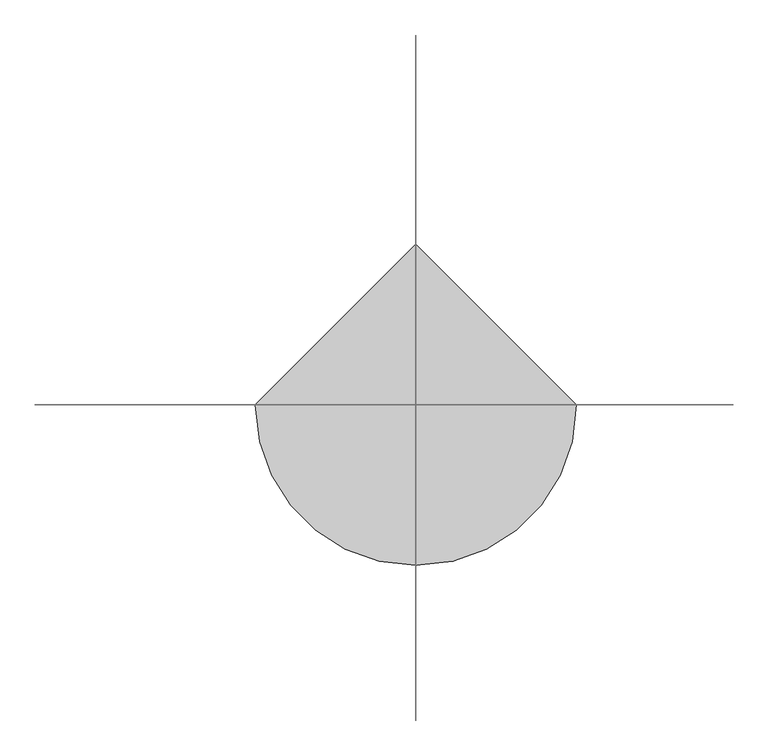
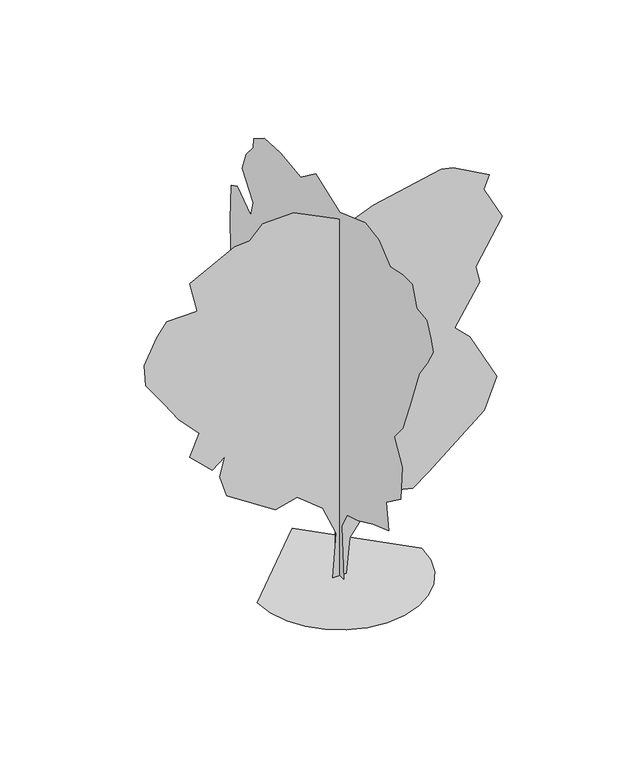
"""IFC4 building model written with IfcOpenShell, lengths in millimetres: geographic element geometry, RPC Árvore - Outono : Amelanchier alnifolia - 7,6 metros."""

from ifc_helpers import new_model, si_unit, origin, place, context, project, spatial, triangles, source, transform, mapped, element, save


def geographic_element_72aa0b57(model_context):
    return source(origin(), model_context, "Body", "Tessellation", [
        triangles([(-1565.0867363, 0.0, 0.0919574), (-1523.7097561, -358.6132487, 0.0919574), (-1405.8718906, -687.9436918, 0.0919574), (-1221.0071571, -978.5547323, 0.0919574), (-978.5547323, -1221.0071571, 0.0919574), (-687.9436918, -1405.8718906, 0.0919574), (-358.6132487, -1523.7097561, 0.0919574), (6.84e-05, -1565.0867363, 0.0919574), (358.6132487, -1523.7097561, 0.0919574), (687.9436918, -1405.8718906, 0.0919574), (978.5547323, -1221.0071571, 0.0919574), (1221.0097733, -978.5547323, 0.0919574), (1405.8718906, -687.9436918, 0.0919574), (1523.7097561, -358.6132487, 0.0919574), (1565.0867363, 0.0001368, 0.0919574), (-0.0002052, 1565.0867363, 0.0919574), (-1.68e-05, -141.1460449, 0.1468724), (0.0001144, -69.5594397, 1029.4924662), (0.0001326, -255.7118807, 1368.3177876), (0.0001021, -613.7399363, 1470.611253), (7.01e-05, -1112.4185091, 1700.7719135), (3.2e-05, -1611.0970093, 1879.7846786), (0.0001037, -1534.3777096, 2404.0372719), (8.84e-05, -2007.482262, 2749.2720131), (0.0001631, -2058.6301575, 3426.9632057), (0.0002165, -1892.4032398, 3708.2643494), (0.0002485, -1790.1097744, 3874.5015862), (0.0002546, -2084.2041779, 4219.743885), (0.0002972, -2301.5766655, 4795.1392868), (0.0003605, -2616.5001755, 5640.6888382), (0.0003735, -2876.9770088, 6009.8715363), (0.0003902, -3081.5688812, 6355.1138351), (0.0004283, -2992.0664955, 6585.2666473), (0.0004771, -2864.1838943, 6866.5680817), (0.0005213, -2544.5281151, 6917.7155411), (0.0005853, -2391.0818127, 7301.3124756), (0.0006232, -2074.1139507, 7301.6676865), (0.000662, -1658.5894592, 7212.2661667), (0.0007448, -1279.4384743, 7526.9562607), (0.0008056, -841.6687563, 7599.9925003), (0.0008702, -0.5873857, 7300.0968521), (0.0009993, 787.1337856, 7595.6352081), (0.0010148, 1280.7330173, 7232.3806366), (0.0011051, 1956.3773872, 7314.1058807), (0.0011646, 2480.6299805, 7288.5446503), (0.0011798, 2838.647953, 7058.3662582), (0.0011593, 2851.8212769, 6873.382782), (0.0011539, 3081.5941704, 6598.0600525), (0.0011265, 3209.4767715, 6240.0243484), (0.0010272, 2840.3452332, 5776.5770554), (0.0010016, 2938.35989, 5463.406636), (0.0010907, 3368.7219933, 5780.9087677), (0.0011036, 3580.2805916, 5677.4226425), (0.0010228, 3605.8671112, 4974.1446396), (0.000882, 3572.8072105, 3826.1908722), (0.0007667, 3081.5941704, 3350.2539345), (0.0006219, 2621.2879646, 2595.8281815), (0.0005194, 2035.3388466, 2321.7140991), (0.0004238, 1427.7497704, 2127.4481953), (0.0004077, 1156.5744621, 2263.3840839), (0.0003536, 946.231996, 2020.4377213), (0.0003338, 1035.7396139, 1764.7030403), (0.0003033, 971.8059437, 1572.9045731), (0.0002179, 600.3740733, 1227.6647449), (0.000209, 314.019023, 1439.3701366), (0.0001469, 143.2527658, 1089.4969431), (1.52e-05, 127.6806331, 0.087137), (-130.8090395, 5.7e-06, 1.1e-05), (-67.1190817, -0.0001011, 873.1073896), (-321.388486, -0.0001606, 1465.4027046), (-810.9875622, -0.0001857, 1855.1151089), (-1226.1523373, -0.0001546, 1746.5618511), (-2150.5876259, -0.0001865, 2352.7422924), (-2284.3778606, -0.0002321, 2784.8651894), (-2188.9473484, -0.0002808, 3158.3034416), (-2423.7363602, -0.0002479, 2968.4557274), (-2853.8478973, -0.0002777, 3375.66343), (-2674.1079964, -0.0003355, 3794.8535408), (-3058.4397697, -0.0003678, 4206.7984543), (-3339.7406227, -0.0004043, 4615.9821991), (-3684.9829216, -0.0004471, 5101.8752151), (-3715.1802063, -0.0004955, 5518.9369675), (-3482.2912239, -0.0005635, 6003.9434097), (-3288.5928726, -0.0006016, 6252.6660187), (-2708.0038925, -0.0006282, 6262.4444916), (-2853.8478973, -0.0006938, 6866.4413452), (-1997.146265, -0.0007846, 7313.9541458), (-1709.6588711, -0.0007992, 7331.3071564), (-1460.1079697, -0.0008401, 7582.4871735), (-877.1303272, -0.0008674, 7598.3205093), (233.2934272, -0.0008512, 7054.5914886), (636.9021852, -0.0008891, 7224.4514694), (1928.3536617, -0.0009775, 7492.9844971), (2158.5143223, -0.0009815, 7441.8364563), (2845.1838913, -0.0009661, 7060.6719315), (2743.3438866, -0.0009314, 6807.1356628), (3092.7155846, -0.0008669, 6138.3113708), (2590.2041061, -0.0007451, 5300.3363571), (2661.3145912, -0.0007093, 4973.8655869), (2187.3132912, -0.0005985, 4218.6291275), (2477.6153389, -0.0005768, 3930.2601013), (2987.4810196, -0.0004833, 2958.4490707), (2752.9706245, -0.0004017, 2360.7198578), (1685.407299, -0.0002505, 1483.2500164), (1384.7009445, -0.000212, 1270.4679462), (828.703196, -0.0002039, 1406.5305714), (534.4795853, -0.0001609, 1153.7725983), (193.3851073, -9.12e-05, 694.5658167), (121.1545235, -5.3e-06, 0.0)], [[15, 16, 1], [14, 15, 1], [14, 1, 2], [13, 14, 2], [13, 2, 3], [13, 3, 4], [12, 13, 4], [11, 12, 4], [11, 4, 5], [11, 5, 6], [11, 6, 7], [11, 7, 8], [11, 8, 9], [11, 9, 10], [67, 17, 18], [66, 67, 18], [63, 64, 65], [21, 22, 23], [66, 18, 19], [65, 66, 19], [35, 36, 37], [51, 52, 53], [51, 53, 54], [62, 63, 65], [61, 62, 65], [48, 49, 50], [41, 42, 43], [33, 34, 35], [47, 48, 50], [51, 54, 55], [51, 55, 56], [45, 46, 47], [31, 32, 33], [31, 33, 35], [30, 31, 35], [35, 37, 38], [30, 35, 38], [29, 30, 38], [23, 24, 25], [23, 25, 26], [23, 26, 27], [44, 45, 47], [44, 47, 50], [43, 44, 50], [58, 59, 60], [41, 43, 50], [41, 50, 51], [41, 51, 56], [41, 56, 57], [41, 57, 58], [41, 58, 60], [40, 41, 60], [39, 40, 60], [38, 39, 60], [29, 38, 60], [28, 29, 60], [27, 28, 60], [23, 27, 60], [23, 60, 61], [21, 23, 61], [20, 21, 61], [20, 61, 65], [20, 65, 19], [109, 68, 69], [108, 109, 69], [107, 108, 69], [107, 69, 70], [94, 95, 96], [75, 76, 77], [75, 77, 78], [85, 86, 87], [106, 107, 70], [96, 97, 98], [85, 87, 88], [83, 84, 85], [101, 102, 103], [101, 103, 104], [100, 101, 104], [104, 105, 106], [100, 104, 106], [100, 106, 70], [100, 70, 71], [94, 96, 98], [93, 94, 98], [92, 93, 98], [91, 92, 98], [71, 72, 73], [100, 71, 73], [100, 73, 74], [100, 74, 75], [100, 75, 78], [99, 100, 78], [98, 99, 78], [91, 98, 78], [90, 91, 78], [89, 90, 78], [88, 89, 78], [85, 88, 78], [85, 78, 79], [85, 79, 80], [83, 85, 80], [83, 80, 81], [82, 83, 81]], closed=False),
    ])


if __name__ == "__main__":
    model = new_model("IFC4")
    model_context = context("Model", 3, world=origin())
    ifc_project = project(units=[si_unit("LENGTHUNIT", "METRE", prefix="MILLI")], contexts=[model_context])
    site = spatial("IfcSite", under=ifc_project)
    building = spatial("IfcBuilding", under=site)
    placement = place(None, origin())
    geographic_element_shape = geographic_element_72aa0b57(model_context)
    element("IfcGeographicElement", 1, ObjectType="RPC Árvore - Outono : Amelanchier alnifolia - 7,6 metros", at=placement, inside=building, context=model_context, shape_type="MappedRepresentation", body=[
        mapped(geographic_element_shape, transform((0.0, 0.0, 0.0), x_axis=(1.0, 0.0, 0.0), y_axis=(0.0, 1.0, 0.0), z_axis=(0.0, 0.0, 1.0))),
    ])
    save(model, "model.ifc")
